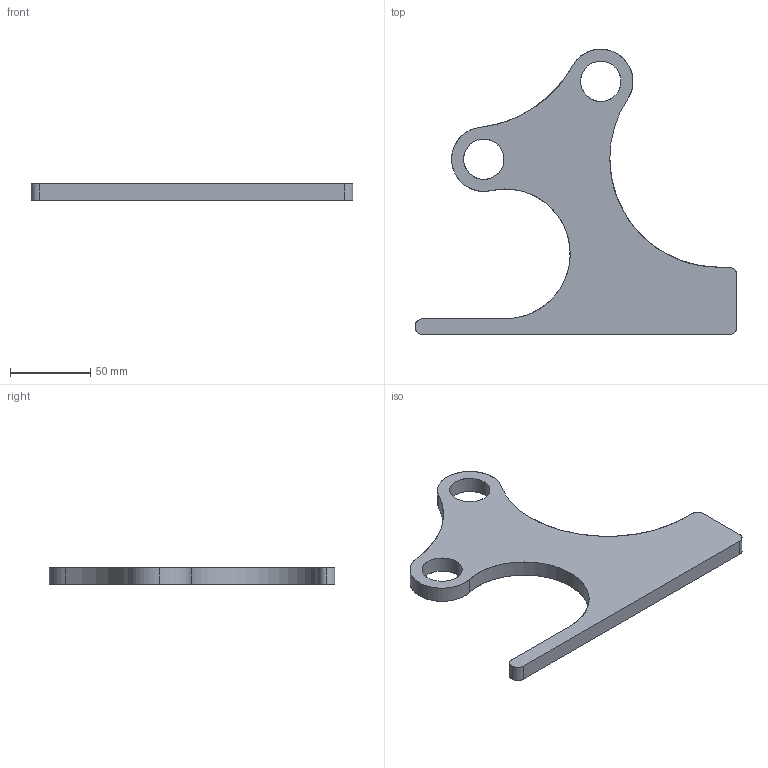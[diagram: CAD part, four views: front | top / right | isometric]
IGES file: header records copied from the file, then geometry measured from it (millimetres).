
Start section: SolidWorks IGES file using analytic representation for surfaces
Global section: file name: E:\Nouveau dossier\tarek\mécaniquee\L3GMCFM\TP0\EX10.IGS; native system: SolidWorks 2013; preprocessor: SolidWorks 2013; author: LENOVO; date: 180921.170049; units: millimetre
Bounding box: 200 x 177.42 x 10 mm (x, y, z)
Surface area: 35651.4 mm2 (no closed solid volume)
Topology: 0 solids, 0 shells, 21 faces, 460 edges, 460 vertices
Faces by surface type: revolution 15, bspline 6
